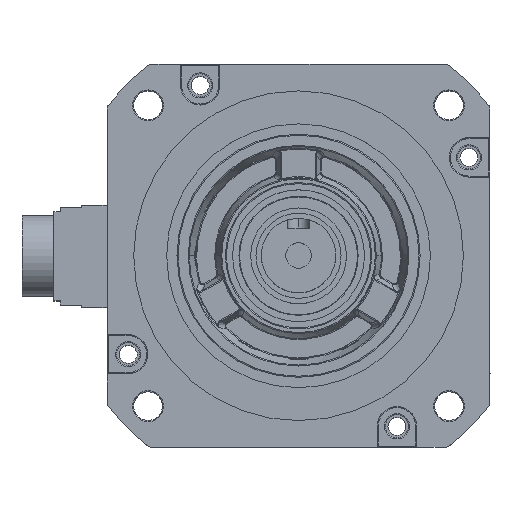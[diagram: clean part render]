
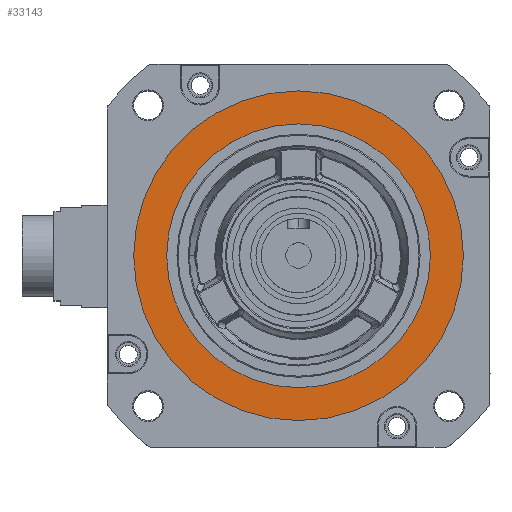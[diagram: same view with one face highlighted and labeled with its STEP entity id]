
A CAD part, top view. The second image highlights one B-rep face of the part: STEP entity #33143.
In plain terms, the highlighted planar face has unit normal (0, 0, 1).
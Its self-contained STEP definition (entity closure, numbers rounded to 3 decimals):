
#21764=CARTESIAN_POINT('Vertex',(68.644,3.946,32.604)) ;
#21771=CARTESIAN_POINT('Vertex',(-86.356,3.946,32.604)) ;
#21774=CARTESIAN_POINT('Axis2P3D Location',(-8.856,3.946,32.604)) ;
#21786=CARTESIAN_POINT('Axis2P3D Location',(-8.856,3.946,32.604)) ;
#33116=CARTESIAN_POINT('Axis2P3D Location',(-8.856,3.946,32.604)) ;
#33125=CARTESIAN_POINT('Axis2P3D Location',(-8.856,3.946,32.604)) ;
#33129=CARTESIAN_POINT('Vertex',(-70.856,3.946,32.604)) ;
#33131=CARTESIAN_POINT('Vertex',(53.144,3.946,32.604)) ;
#33134=CARTESIAN_POINT('Axis2P3D Location',(-8.856,3.946,32.604)) ;
#21775=DIRECTION('Axis2P3D Direction',(0.,0.,1.)) ;
#21787=DIRECTION('Axis2P3D Direction',(0.,0.,1.)) ;
#33117=DIRECTION('Axis2P3D Direction',(0.,0.,1.)) ;
#33118=DIRECTION('Axis2P3D XDirection',(1.,0.,0.)) ;
#33126=DIRECTION('Axis2P3D Direction',(0.,0.,1.)) ;
#33135=DIRECTION('Axis2P3D Direction',(0.,0.,1.)) ;
#21776=AXIS2_PLACEMENT_3D('Circle Axis2P3D',#21774,#21775,$) ;
#21788=AXIS2_PLACEMENT_3D('Circle Axis2P3D',#21786,#21787,$) ;
#33119=AXIS2_PLACEMENT_3D('Plane Axis2P3D',#33116,#33117,#33118) ;
#33127=AXIS2_PLACEMENT_3D('Circle Axis2P3D',#33125,#33126,$) ;
#33136=AXIS2_PLACEMENT_3D('Circle Axis2P3D',#33134,#33135,$) ;
#33122=ORIENTED_EDGE('',*,*,#21778,.T.) ;
#33123=ORIENTED_EDGE('',*,*,#21790,.T.) ;
#33140=ORIENTED_EDGE('',*,*,#33133,.F.) ;
#33141=ORIENTED_EDGE('',*,*,#33138,.F.) ;
#33142=FACE_BOUND('',#33139,.T.) ;
#33143=ADVANCED_FACE('\X2\96F64EF651E04F554F53\X0\',(#33124,#33142),#33120,.T.) ;
#21777=CIRCLE('generated circle',#21776,77.5) ;
#21789=CIRCLE('generated circle',#21788,77.5) ;
#33128=CIRCLE('generated circle',#33127,62.) ;
#33137=CIRCLE('generated circle',#33136,62.) ;
#21778=EDGE_CURVE('',#21765,#21772,#21777,.T.) ;
#21790=EDGE_CURVE('',#21772,#21765,#21789,.T.) ;
#33133=EDGE_CURVE('',#33130,#33132,#33128,.T.) ;
#33138=EDGE_CURVE('',#33132,#33130,#33137,.T.) ;
#33121=EDGE_LOOP('',(#33122,#33123)) ;
#33139=EDGE_LOOP('',(#33140,#33141)) ;
#33124=FACE_OUTER_BOUND('',#33121,.T.) ;
#33120=PLANE('Plane',#33119) ;
#21765=VERTEX_POINT('',#21764) ;
#21772=VERTEX_POINT('',#21771) ;
#33130=VERTEX_POINT('',#33129) ;
#33132=VERTEX_POINT('',#33131) ;
